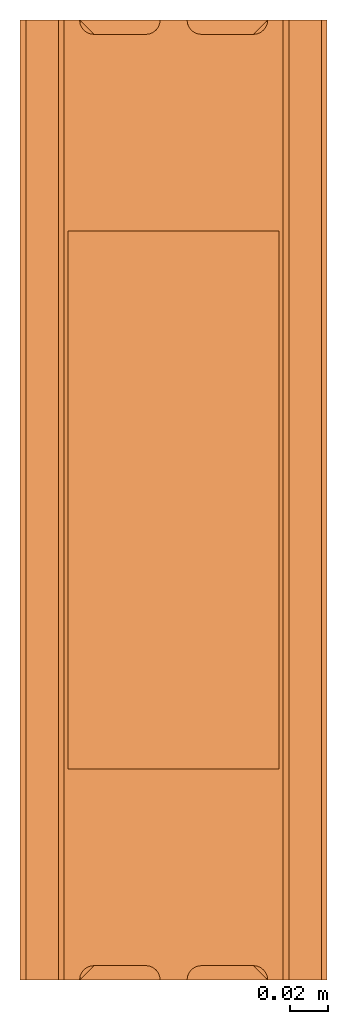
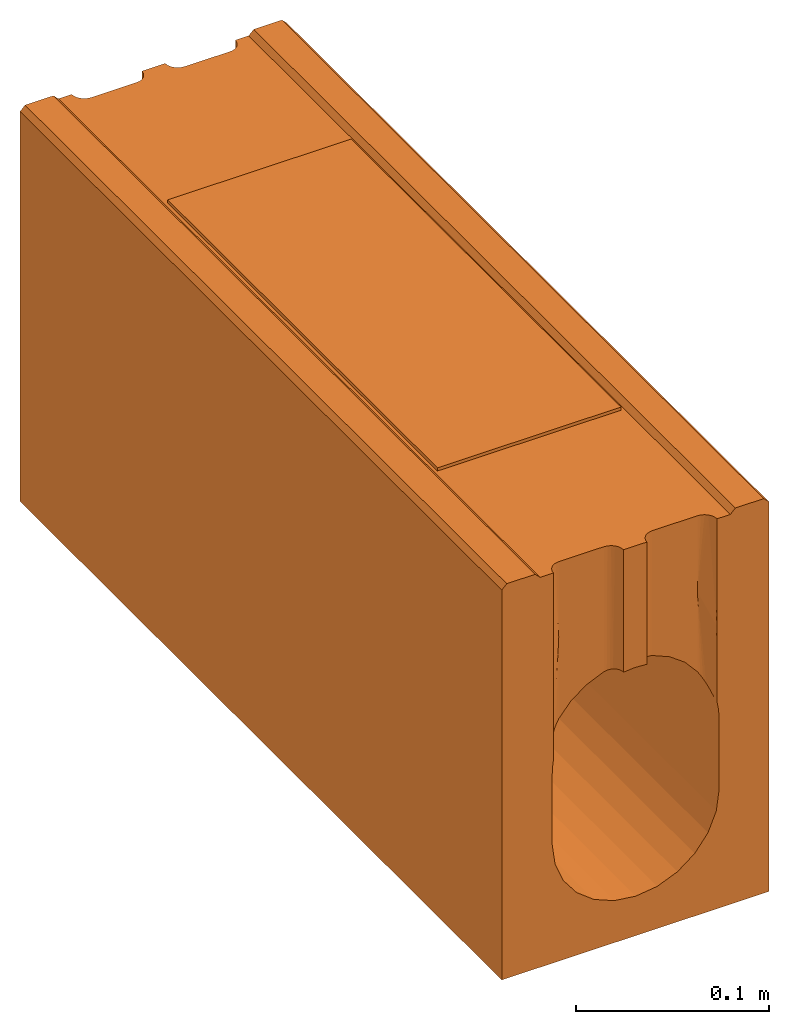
# One storey: 1 proxy.
"""IFC2X3 building model written with IfcOpenShell, lengths in millimetres."""

from ifc_helpers import new_model, entity, si_unit, converted_unit, direction, frame, origin, place, context, subcontext, project, spatial, faceted_brep, source, transform, mapped, material, element, save


model = new_model("IFC2X3")

# Units and contexts
model_context = context("Model", 3, precision=1e-06, world=origin(), true_north=direction((2.0, 6.12303176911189e-17, 1.0)))
context_of_model = context(None, 3, precision=1e-06, world=origin(), true_north=direction((2.0, 6.12303176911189e-17, 1.0)))
body_context = subcontext(model_context, "Body", "Model", "MODEL_VIEW")
ifc_project = project(units=[si_unit("LENGTHUNIT", "METRE", prefix="MILLI"), si_unit("AREAUNIT", "SQUARE_METRE", prefix="MILLI"), si_unit("VOLUMEUNIT", "CUBIC_METRE", prefix="MILLI"), converted_unit("PLANEANGLEUNIT", "DEGREE", entity("IfcRatioMeasure", 0.0174532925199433), si_unit("PLANEANGLEUNIT", "RADIAN"), dimensions=[0, 0, 0, 0, 0, 0, 0]), si_unit("TIMEUNIT", "SECOND")], contexts=[model_context, context_of_model])

# Site, building, storey
site_placement = place(None, origin())
site = spatial("IfcSite", under=ifc_project, at=site_placement, Name="Default", CompositionType="ELEMENT")
building_placement = place(site_placement, origin())
building = spatial("IfcBuilding", under=site, at=building_placement, CompositionType="ELEMENT")
storey_placement = place(building_placement, frame((0.0, 0.0, -4600.0)))
storey = spatial("IfcBuildingStorey", under=building, at=storey_placement, Name="B.O. Footing", CompositionType="ELEMENT", Elevation=-4600.0)

# Proxy
ifc_material = material(Name="Acetal Resin, Black")
shared_shape = source(origin(), body_context, "Body", "Brep", [
    faceted_brep([(6.99967983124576, 500.0, -3.0), (6.99967983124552, 500.0, -80.4539215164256), (-0.0189173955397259, 500.0, -79.9969682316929), (-7.0, 500.0, -80.5246623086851), (-7.0, 500.0, -3.0), (-80.0, 0.0, -250.0), (-48.0462913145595, 0.0, -187.940952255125), (-49.750000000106, 0.0, -175.0), (-43.0512701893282, 0.0, -200.0), (-49.7499999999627, 0.0, -129.996245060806), (-12.6909522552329, 0.0, -223.296291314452), (-24.7500000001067, 0.0, -218.30127018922), (-35.1053390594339, 0.0, -210.355339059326), (0.24999999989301, 0.0, -225.0), (80.0, 0.0, -250.0), (-57.0, 0.0, -3.0), (-60.0, 0.0, 0.0), (-80.0, 0.0, -3.0), (-49.0, 0.0, -121.368528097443), (-77.0, 0.0, 0.0), (-49.5603428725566, 0.0, -125.645412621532), (-49.0, 0.0, -73.5563922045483), (-49.0, 0.0, -3.0), (13.1909522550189, 0.0, -223.296291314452), (35.6053390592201, 0.0, -210.355339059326), (25.2499999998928, 0.0, -218.301270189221), (43.5512701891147, 0.0, -200.0), (48.5462913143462, 0.0, -187.940952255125), (50.2499999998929, 0.0, -175.0), (50.2499999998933, 0.0, -129.996245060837), (80.0, 0.0, -3.00030384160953), (49.0, 0.0, -118.886002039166), (49.9333247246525, 0.0, -124.377771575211), (57.0, 0.0, -3.0), (49.0, 0.0, -3.0), (49.0, 0.0, -71.0738676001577), (76.9996961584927, 0.0, 0.0), (60.0, 0.0, 0.0), (-7.0, 0.0, -3.0), (-7.0, 0.0, -80.5246623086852), (-0.0172292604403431, 0.0, -79.9969591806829), (6.99967983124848, 0.0, -80.4539215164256), (6.99967983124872, 0.0, -3.0), (80.0, 500.0, -250.0), (48.5462913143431, 500.0, -187.940952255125), (50.2499999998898, 500.0, -175.0), (43.5512701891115, 500.0, -200.0), (50.250000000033, 500.0, -129.996245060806), (13.1909522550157, 500.0, -223.296291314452), (25.2499999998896, 500.0, -218.301270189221), (35.605339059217, 500.0, -210.355339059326), (0.249999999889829, 500.0, -225.0), (-80.0, 500.0, -250.0), (57.0, 500.0, -3.0), (76.9996961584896, 500.0, 0.0), (80.0, 500.0, -3.00030384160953), (49.0, 500.0, -118.886002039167), (60.0, 500.0, 0.0), (49.9336821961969, 500.0, -124.380933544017), (49.0, 500.0, -71.0738674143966), (49.0, 500.0, -3.0), (-12.690952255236, 500.0, -223.296291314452), (-35.105339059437, 500.0, -210.355339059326), (-24.7500000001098, 500.0, -218.30127018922), (-43.0512701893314, 500.0, -200.0), (-48.0462913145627, 500.0, -187.940952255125), (-49.7500000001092, 500.0, -175.0), (-49.7499999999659, 500.0, -129.996245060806), (-80.0, 500.0, -3.0), (-49.0, 500.0, -121.368528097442), (-49.559996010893, 500.0, -125.641443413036), (-57.0, 500.0, -3.0), (-49.0, 500.0, -3.0), (-49.0, 500.0, -73.5563919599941), (-60.0, 500.0, 0.0), (-77.0, 500.0, 0.0), (27.4999999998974, 297.63139720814, -250.0), (14.2350474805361, 303.125920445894, -250.0), (38.8908729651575, 288.890872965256, -250.0), (0.0, 305.0, -250.0), (55.0, 250.0, -250.0), (53.1259204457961, 264.235047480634, -250.0), (47.6313972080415, 277.499999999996, -250.0), (-14.2350474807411, 303.125920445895, -250.0), (-27.5000000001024, 297.63139720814, -250.0), (-38.8908729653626, 288.890872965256, -250.0), (-47.6313972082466, 277.499999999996, -250.0), (-53.1259204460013, 264.235047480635, -250.0), (-55.0, 250.0, -250.0), (47.6313972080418, 222.499999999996, -250.0), (53.1259204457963, 235.764952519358, -250.0), (38.8908729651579, 211.109127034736, -250.0), (27.4999999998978, 202.368602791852, -250.0), (14.2350474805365, 196.874079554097, -250.0), (0.0, 195.0, -250.0), (-53.1259204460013, 235.764952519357, -250.0), (-47.6313972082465, 222.499999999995, -250.0), (-27.5000000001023, 202.368602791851, -250.0), (-14.2350474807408, 196.874079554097, -250.0), (-38.8908729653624, 211.109127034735, -250.0), (48.5987189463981, 497.579630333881, -117.252565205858), (48.5987189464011, 2.42036966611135, -117.252565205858), (47.8724699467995, 496.045050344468, -114.761404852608), (47.8724699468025, 3.95494965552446, -114.761404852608), (46.9553932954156, 494.853284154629, -112.146700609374), (46.9553932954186, 5.14671584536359, -112.146700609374), (41.5000000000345, 492.499999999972, -101.739608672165), (43.125993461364, 492.678378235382, -104.273702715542), (43.1259934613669, 7.32162176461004, -104.273702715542), (41.5000000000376, 7.50000000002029, -101.739608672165), (44.5814205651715, 493.162248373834, -106.872120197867), (44.5814205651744, 6.83775162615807, -106.872120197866), (45.8581398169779, 493.896180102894, -109.504842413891), (45.8581398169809, 6.10381989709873, -109.504842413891), (8.67334988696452, 495.277301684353, -80.7108803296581), (9.87649659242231, 494.094394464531, -80.931689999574), (9.87649659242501, 5.90560553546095, -80.931689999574), (8.67334988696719, 4.72269831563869, -80.7108803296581), (7.19284280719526, 498.30880731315, -80.4806219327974), (7.19284280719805, 1.6911926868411, -80.4806219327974), (7.76144252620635, 496.706649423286, -80.563682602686), (7.76144252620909, 3.29335057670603, -80.5636826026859), (24.9231686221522, 492.499999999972, -86.5079161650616), (34.0799742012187, 492.499999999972, -93.1786834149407), (34.0799742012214, 7.50000000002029, -93.1786834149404), (24.9231686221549, 7.50000000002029, -86.5079161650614), (11.3020957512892, 493.215793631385, -81.2330296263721), (12.8707399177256, 492.679033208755, -81.6152888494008), (12.8707399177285, 7.32096679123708, -81.6152888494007), (11.302095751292, 6.7842063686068, -81.233029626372), (14.4996798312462, 492.499999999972, -82.0697740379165), (14.4996798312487, 7.50000000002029, -82.0697740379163), (-7.76344965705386, 496.703200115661, -80.6425762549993), (-7.19362627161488, 498.306806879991, -80.5534252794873), (-7.19362627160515, 1.69319312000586, -80.5534252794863), (-7.76344965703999, 3.29679988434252, -80.6425762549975), (-8.67685848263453, 495.273370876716, -80.7995866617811), (-8.67685848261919, 4.72662912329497, -80.7995866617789), (-9.8810851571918, 494.091055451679, -81.0333906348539), (-9.88108515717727, 5.90894454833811, -81.0333906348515), (-34.1443454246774, 492.499999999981, -93.7053508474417), (-24.9841446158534, 492.499999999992, -86.8310050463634), (-24.9841446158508, 7.50000000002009, -86.8310050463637), (-34.1443454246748, 7.50000000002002, -93.7053508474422), (-12.8738232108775, 492.678418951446, -81.7493253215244), (-11.3066605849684, 493.21379462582, -81.3501393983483), (-11.3066605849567, 6.78620537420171, -81.3501393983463), (-12.87382321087, 7.32158104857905, -81.7493253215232), (-48.6094823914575, 497.611431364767, -119.377818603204), (-47.923787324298, 496.128959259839, -116.606464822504), (-47.9237873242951, 3.87104074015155, -116.606464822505), (-48.6094823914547, 2.38856863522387, -119.377818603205), (-47.0369451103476, 494.941122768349, -113.749866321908), (-47.0369451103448, 5.05887723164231, -113.749866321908), (-43.1807877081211, 492.69076251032, -105.221930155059), (-41.4999999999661, 492.499999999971, -102.483747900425), (-41.4999999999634, 7.50000000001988, -102.483747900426), (-43.1807877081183, 7.30923748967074, -105.221930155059), (-45.9520376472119, 493.964325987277, -110.881546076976), (-45.9520376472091, 6.03567401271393, -110.881546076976), (-44.6669636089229, 493.201445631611, -108.031127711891), (-44.6669636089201, 6.79855436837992, -108.031127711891), (-14.4999999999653, 492.500000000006, -82.2213824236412), (-14.4999999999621, 7.50000000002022, -82.2213824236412), (-48.7444436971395, 498.058857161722, -3.0), (-47.9951905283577, 496.249999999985, -3.0), (-7.2555563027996, 498.058857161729, -3.0), (7.25523613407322, 498.058857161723, -3.0), (-8.00480947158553, 496.25, -3.0), (8.00448930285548, 496.249999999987, -3.0), (-46.803300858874, 494.69669914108, -3.0), (-45.2499999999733, 493.504809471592, -3.0), (-41.4999999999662, 492.499999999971, -3.0), (-43.441142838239, 492.755556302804, -3.0), (-43.4411428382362, 7.24444369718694, -3.0), (-41.4999999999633, 7.50000000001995, -3.0), (-45.2499999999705, 6.49519052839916, -3.0), (-9.1966991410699, 494.696699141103, -3.0), (-10.7499999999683, 493.504809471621, -3.0), (10.7496798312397, 493.504809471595, -3.0), (9.19637897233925, 494.696699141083, -3.0), (12.5585369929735, 492.755556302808, -3.0), (-12.5588571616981, 492.755556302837, -3.0), (-14.4999999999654, 492.500000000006, -3.0), (14.4996798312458, 492.499999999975, -3.0), (-14.4999999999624, 7.50000000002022, -3.0), (48.7444436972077, 498.058857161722, -3.0), (47.9951905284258, 496.249999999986, -3.0), (46.8033008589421, 494.696699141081, -3.0), (45.2500000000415, 493.504809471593, -3.0), (43.4411428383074, 492.755556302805, -3.0), (41.5000000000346, 492.499999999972, -3.0), (43.4411428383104, 7.24444369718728, -3.0), (45.2500000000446, 6.49519052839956, -3.0), (41.5000000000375, 7.50000000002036, -3.0), (14.4996798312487, 7.50000000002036, -3.0), (-12.5588571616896, 7.24444369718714, -3.0), (-10.7499999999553, 6.49519052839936, -3.0), (-9.19669914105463, 5.30330085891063, -3.0), (10.7496798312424, 6.49519052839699, -3.0), (12.5585369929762, 7.24444369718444, -3.0), (-48.7444436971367, 1.94114283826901, -3.0), (-47.9951905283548, 3.75000000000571, -3.0), (-46.8033008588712, 5.30330085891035, -3.0), (7.25523613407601, 1.94114283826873, -3.0), (-7.25555630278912, 1.94114283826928, -3.0), (8.00448930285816, 3.75000000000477, -3.0), (-8.00480947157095, 3.75000000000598, -3.0), (9.19637897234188, 5.3033008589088, -3.0), (47.995190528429, 3.75000000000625, -3.0), (48.7444436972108, 1.94114283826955, -3.0), (46.8033008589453, 5.30330085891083, -3.0), (41.5000000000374, 7.50000000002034, -50.8121350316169), (-41.4999999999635, 7.50000000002, -50.8121349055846), (-27.5000000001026, 297.63139720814, -240.0), (-14.2350474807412, 303.125920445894, -240.0), (47.6313972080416, 277.499999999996, -240.0), (-38.8908729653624, 211.109127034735, -240.0), (-47.6313972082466, 277.499999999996, -240.0), (-38.8908729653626, 288.890872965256, -240.0), (-55.0, 250.0, -240.0), (-53.1259204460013, 264.235047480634, -240.0), (0.0, 305.0, -240.0), (14.2350474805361, 303.125920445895, -240.0), (27.4999999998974, 297.63139720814, -240.0), (38.8908729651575, 288.890872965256, -240.0), (53.1259204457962, 264.235047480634, -240.0), (0.0, 195.0, -240.0), (-47.6313972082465, 222.499999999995, -240.0), (-53.1259204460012, 235.764952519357, -240.0), (-14.2350474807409, 196.874079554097, -240.0), (-27.5000000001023, 202.368602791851, -240.0), (14.2350474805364, 196.874079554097, -240.0), (53.1259204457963, 235.764952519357, -240.0), (47.6313972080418, 222.499999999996, -240.0), (27.4999999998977, 202.368602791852, -240.0), (55.0, 250.0, -240.0), (38.8908729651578, 211.109127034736, -240.0), (41.5000000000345, 492.499999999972, -50.8121352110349), (-41.4999999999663, 492.499999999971, -50.8121352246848)], [[[0, 1, 2]], [[2, 3, 4, 0]], [[5, 6, 7]], [[6, 5, 8]], [[5, 7, 9]], [[10, 11, 5]], [[12, 8, 5]], [[11, 12, 5]], [[13, 10, 5, 14]], [[15, 16, 17, 18]], [[16, 19, 17]], [[18, 17, 20]], [[15, 18, 21, 22]], [[9, 20, 17, 5]], [[23, 13, 14]], [[24, 25, 14]], [[23, 14, 25]], [[26, 14, 27]], [[14, 26, 24]], [[28, 27, 14]], [[29, 28, 14, 30]], [[30, 31, 32]], [[33, 34, 35, 31]], [[32, 29, 30]], [[30, 36, 33, 31]], [[36, 37, 33]], [[38, 39, 40]], [[40, 41, 42, 38]], [[43, 44, 45]], [[44, 43, 46]], [[43, 45, 47]], [[48, 49, 43]], [[50, 46, 43]], [[49, 50, 43]], [[51, 48, 43, 52]], [[53, 54, 55, 56]], [[57, 54, 53]], [[56, 55, 58]], [[53, 56, 59, 60]], [[47, 58, 55, 43]], [[61, 51, 52]], [[62, 63, 52]], [[61, 52, 63]], [[64, 52, 65]], [[52, 64, 62]], [[66, 65, 52]], [[67, 66, 52, 68]], [[68, 69, 70]], [[71, 72, 73, 69]], [[70, 67, 68]], [[68, 74, 71, 69]], [[75, 74, 68]], [[14, 43, 55, 30]], [[43, 76, 77]], [[76, 43, 78]], [[43, 77, 79]], [[80, 81, 43, 14]], [[82, 78, 43]], [[81, 82, 43]], [[79, 83, 52, 43]], [[52, 83, 84]], [[84, 85, 52]], [[86, 87, 52]], [[85, 86, 52]], [[52, 87, 88]], [[89, 90, 14]], [[91, 89, 14]], [[92, 14, 93]], [[14, 92, 91]], [[94, 93, 14, 5]], [[90, 80, 14]], [[95, 96, 5]], [[88, 95, 5, 52]], [[97, 98, 5]], [[99, 5, 96]], [[5, 99, 97]], [[98, 94, 5]], [[64, 65, 6, 8]], [[62, 64, 8, 12]], [[61, 63, 11, 10]], [[63, 62, 12, 11]], [[51, 61, 10, 13]], [[65, 66, 7, 6]], [[49, 48, 23, 25]], [[50, 49, 25, 24]], [[44, 46, 26, 27]], [[46, 50, 24, 26]], [[45, 44, 27, 28]], [[13, 23, 48, 51]], [[7, 66, 67, 9]], [[58, 47, 29]], [[100, 56, 31, 101]], [[32, 56, 58]], [[102, 100, 101, 103]], [[104, 102, 103, 105]], [[106, 107, 108, 109]], [[107, 110, 111, 108]], [[110, 112, 113, 111]], [[112, 104, 105, 113]], [[114, 115, 116, 117]], [[1, 118, 119, 41]], [[118, 120, 121, 119]], [[120, 114, 117, 121]], [[122, 123, 124, 125]], [[126, 127, 128, 129]], [[127, 130, 131, 128]], [[123, 106, 109, 124]], [[115, 126, 129, 116]], [[130, 122, 125, 131]], [[32, 58, 29]], [[56, 32, 31]], [[1, 41, 40]], [[40, 2, 1]], [[3, 2, 39]], [[132, 133, 134, 135]], [[133, 3, 39, 134]], [[136, 132, 135, 137]], [[138, 136, 137, 139]], [[140, 141, 142, 143]], [[144, 145, 146, 147]], [[145, 138, 139, 146]], [[148, 149, 150, 151]], [[70, 69, 18]], [[69, 148, 151, 18]], [[149, 152, 153, 150]], [[154, 155, 156, 157]], [[152, 158, 159, 153]], [[158, 160, 161, 159]], [[160, 154, 157, 161]], [[20, 67, 70]], [[155, 140, 143, 156]], [[141, 162, 163, 142]], [[147, 163, 162, 144]], [[20, 70, 18]], [[20, 9, 67]], [[40, 39, 2]], [[47, 45, 28, 29]], [[17, 68, 52, 5]], [[71, 164, 72]], [[164, 71, 165]], [[4, 166, 167, 0]], [[166, 168, 169, 167]], [[71, 170, 165]], [[171, 170, 71, 15]], [[172, 173, 174, 175]], [[173, 171, 176, 174]], [[177, 178, 179, 180]], [[181, 182, 183, 184]], [[178, 182, 181, 179]], [[183, 172, 175, 185]], [[168, 177, 180, 169]], [[53, 60, 186]], [[186, 187, 53]], [[53, 187, 188]], [[53, 188, 189, 33]], [[190, 191, 192, 193]], [[189, 190, 193]], [[194, 191, 184, 195]], [[183, 185, 184]], [[185, 196, 195, 184]], [[197, 198, 199, 200]], [[196, 197, 200, 195]], [[201, 202, 15]], [[15, 22, 201]], [[202, 203, 15]], [[204, 205, 38, 42]], [[206, 207, 205, 204]], [[15, 203, 176, 171]], [[198, 207, 208, 199]], [[194, 192, 191]], [[209, 210, 33]], [[34, 33, 210]], [[209, 33, 211]], [[193, 211, 33, 189]], [[208, 207, 206]], [[75, 68, 17, 19]], [[16, 74, 75, 19]], [[71, 74, 16, 15]], [[57, 53, 33, 37]], [[54, 57, 37, 36]], [[30, 55, 54, 36]], [[194, 125, 124]], [[124, 109, 212, 194]], [[194, 195, 131, 125]], [[193, 212, 211]], [[209, 211, 35]], [[210, 209, 35]], [[194, 212, 192]], [[212, 108, 111]], [[109, 108, 212]], [[35, 211, 212]], [[35, 212, 113]], [[193, 192, 212]], [[35, 34, 210]], [[35, 101, 31]], [[103, 101, 35]], [[113, 105, 35]], [[105, 103, 35]], [[111, 113, 212]], [[204, 42, 119]], [[206, 204, 121]], [[42, 41, 119]], [[206, 121, 117]], [[121, 204, 119]], [[117, 208, 206]], [[199, 208, 116]], [[200, 199, 129]], [[195, 200, 128]], [[199, 116, 129]], [[195, 128, 131]], [[128, 200, 129]], [[117, 116, 208]], [[175, 213, 143, 142]], [[163, 185, 175, 142]], [[196, 185, 147]], [[197, 196, 146]], [[185, 163, 147]], [[197, 146, 139]], [[146, 196, 147]], [[139, 198, 197]], [[207, 198, 137]], [[205, 207, 135]], [[38, 205, 134]], [[207, 137, 135]], [[38, 134, 39]], [[134, 205, 135]], [[139, 137, 198]], [[203, 213, 176]], [[21, 159, 213]], [[21, 18, 151]], [[151, 150, 21]], [[21, 150, 153]], [[213, 203, 21]], [[156, 213, 157]], [[161, 157, 213]], [[203, 202, 21]], [[213, 175, 174]], [[22, 21, 201]], [[159, 161, 213]], [[159, 21, 153]], [[21, 202, 201]], [[174, 176, 213]], [[214, 215, 216, 217]], [[218, 219, 214, 217]], [[220, 221, 218, 217]], [[222, 223, 224, 215]], [[224, 225, 216, 215]], [[216, 226, 227, 217]], [[217, 228, 229, 220]], [[217, 227, 230, 231]], [[226, 232, 227]], [[233, 234, 235, 236]], [[237, 235, 234]], [[236, 235, 232, 226]], [[226, 81, 80, 236]], [[216, 82, 81, 226]], [[224, 76, 78, 225]], [[225, 78, 82, 216]], [[223, 77, 76, 224]], [[77, 223, 222, 79]], [[215, 83, 79, 222]], [[214, 84, 83, 215]], [[218, 86, 85, 219]], [[219, 85, 84, 214]], [[221, 87, 86, 218]], [[87, 221, 220, 88]], [[229, 95, 88, 220]], [[228, 96, 95, 229]], [[231, 97, 99, 217]], [[217, 99, 96, 228]], [[230, 98, 97, 231]], [[98, 230, 227, 94]], [[232, 93, 94, 227]], [[235, 92, 93, 232]], [[234, 89, 91, 237]], [[237, 91, 92, 235]], [[233, 90, 89, 234]], [[90, 233, 236, 80]], [[181, 184, 127]], [[179, 181, 126]], [[184, 130, 127]], [[179, 126, 115]], [[126, 181, 127]], [[115, 180, 179]], [[169, 180, 114]], [[167, 169, 120]], [[0, 167, 118]], [[169, 114, 120]], [[0, 118, 1]], [[118, 167, 120]], [[115, 114, 180]], [[60, 59, 186]], [[188, 238, 189]], [[59, 112, 238]], [[59, 56, 100]], [[59, 100, 102]], [[102, 104, 59]], [[106, 238, 107]], [[59, 187, 186]], [[238, 188, 59]], [[110, 107, 238]], [[238, 191, 190]], [[187, 59, 188]], [[112, 110, 238]], [[112, 59, 104]], [[190, 189, 238]], [[191, 238, 123, 122]], [[130, 184, 191, 122]], [[165, 73, 164]], [[73, 165, 170]], [[170, 171, 239]], [[171, 173, 239]], [[172, 239, 173]], [[239, 154, 160]], [[155, 154, 239]], [[73, 170, 239]], [[73, 239, 158]], [[164, 73, 72]], [[73, 148, 69]], [[149, 148, 73]], [[158, 152, 73]], [[149, 73, 152]], [[160, 158, 239]], [[166, 4, 133]], [[168, 166, 132]], [[4, 3, 133]], [[168, 132, 136]], [[132, 166, 133]], [[136, 177, 168]], [[178, 177, 138]], [[182, 178, 145]], [[183, 182, 144]], [[178, 138, 145]], [[183, 144, 162]], [[144, 182, 145]], [[136, 138, 177]], [[172, 141, 140]], [[140, 155, 239, 172]], [[172, 183, 162, 141]], [[143, 213, 156]], [[123, 238, 106]]]),
    faceted_brep([(55.0, 390.0, -1.0), (-55.0, 390.0, -1.0), (-55.0, 250.0, -1.0), (-55.0, 110.0, -1.0), (55.0, 110.0, -1.0), (55.0, 110.0, -5.0), (-55.0, 110.0, -5.0), (-55.0, 250.0, -5.0), (-55.0, 390.0, -5.0), (55.0, 390.0, -5.0)], [[[0, 1, 2]], [[2, 3, 4, 0]], [[5, 6, 7]], [[7, 8, 9, 5]], [[2, 1, 8, 7]], [[3, 2, 7, 6]], [[4, 3, 6, 5]], [[0, 4, 5, 9]], [[1, 0, 9, 8]]]),
])
proxy_placement = place(storey_placement, frame((-63315.5678793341, 29124.476162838, 300.0)))
element("IfcBuildingElementProxy", 1, at=proxy_placement, inside=storey, material=ifc_material, Name="Civil-Drainage-Channel-ACO-RoadDrain 100:32103 - PD100 F 10.3 Rodding Access 500mm LG:32103 - PD100 F 10.3 Rodding Access 500mm LG", ObjectType="32103 - PD100 F 10.3 Rodding Access 500mm LG", CompositionType="ELEMENT", context=body_context, shape_type="MappedRepresentation", body=[
    mapped(shared_shape, transform((0.0, 0.0, 0.0), scale=1.0)),
])

save(model, "model.ifc")
